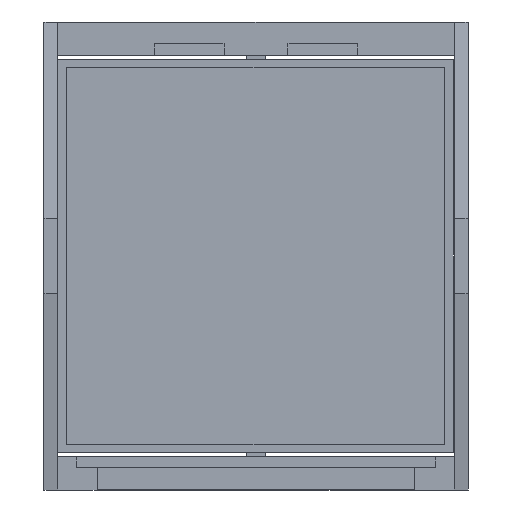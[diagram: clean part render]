
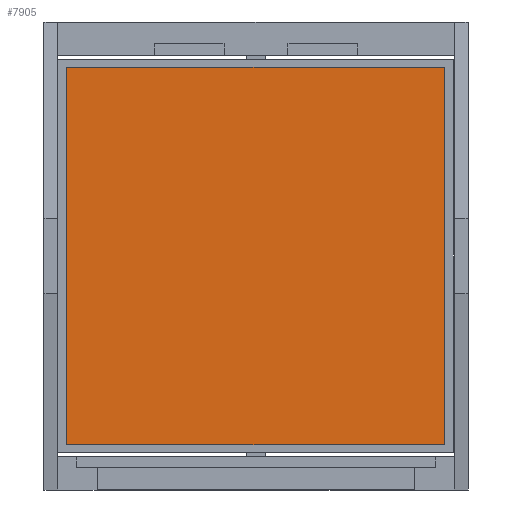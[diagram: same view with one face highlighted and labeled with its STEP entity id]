
A CAD part, front view. The second image highlights one B-rep face of the part: STEP entity #7905.
In plain terms, the highlighted planar face has unit normal (0, -1, 0).
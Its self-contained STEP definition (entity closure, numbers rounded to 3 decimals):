
#18 = VERTEX_POINT ( 'NONE', #1302 ) ;
#376 = DIRECTION ( 'NONE',  ( 0., 0., 1. ) ) ;
#425 = VECTOR ( 'NONE', #8895, 1000. ) ;
#448 = CARTESIAN_POINT ( 'NONE',  ( 24.524, -2.324, -20.423 ) ) ;
#545 = EDGE_LOOP ( 'NONE', ( #5211, #2490, #4148, #9386 ) ) ;
#1302 = CARTESIAN_POINT ( 'NONE',  ( -13.476, -2.324, 17.577 ) ) ;
#1374 = VECTOR ( 'NONE', #9052, 1000. ) ;
#1856 = CARTESIAN_POINT ( 'NONE',  ( -13.476, -2.324, -20.423 ) ) ;
#2164 = PLANE ( 'NONE',  #5476 ) ;
#2466 = CARTESIAN_POINT ( 'NONE',  ( 24.524, -2.324, -20.423 ) ) ;
#2490 = ORIENTED_EDGE ( 'NONE', *, *, #8746, .F. ) ;
#2530 = LINE ( 'NONE', #5480, #3372 ) ;
#2576 = VERTEX_POINT ( 'NONE', #1856 ) ;
#2888 = CARTESIAN_POINT ( 'NONE',  ( -13.476, -2.324, 17.577 ) ) ;
#3095 = LINE ( 'NONE', #2466, #1374 ) ;
#3198 = CARTESIAN_POINT ( 'NONE',  ( 24.524, -2.324, 17.577 ) ) ;
#3372 = VECTOR ( 'NONE', #6812, 1000. ) ;
#3678 = DIRECTION ( 'NONE',  ( 0., 1., 0. ) ) ;
#3722 = DIRECTION ( 'NONE',  ( 0., 0., 1. ) ) ;
#4148 = ORIENTED_EDGE ( 'NONE', *, *, #4995, .F. ) ;
#4767 = LINE ( 'NONE', #6969, #6279 ) ;
#4995 = EDGE_CURVE ( 'NONE', #8299, #8651, #3095, .T. ) ;
#5211 = ORIENTED_EDGE ( 'NONE', *, *, #9105, .F. ) ;
#5225 = LINE ( 'NONE', #6605, #425 ) ;
#5476 = AXIS2_PLACEMENT_3D ( 'NONE', #2888, #3678, #3722 ) ;
#5480 = CARTESIAN_POINT ( 'NONE',  ( -13.476, -2.324, 17.577 ) ) ;
#6279 = VECTOR ( 'NONE', #376, 1000. ) ;
#6605 = CARTESIAN_POINT ( 'NONE',  ( -13.476, -2.324, -20.423 ) ) ;
#6769 = EDGE_CURVE ( 'NONE', #18, #8299, #2530, .T. ) ;
#6812 = DIRECTION ( 'NONE',  ( 1., 0., 0. ) ) ;
#6969 = CARTESIAN_POINT ( 'NONE',  ( -13.476, -2.324, -20.423 ) ) ;
#7905 = ADVANCED_FACE ( 'NONE', ( #8744 ), #2164, .F. ) ;
#8299 = VERTEX_POINT ( 'NONE', #3198 ) ;
#8651 = VERTEX_POINT ( 'NONE', #448 ) ;
#8744 = FACE_OUTER_BOUND ( 'NONE', #545, .T. ) ;
#8746 = EDGE_CURVE ( 'NONE', #8651, #2576, #5225, .T. ) ;
#8895 = DIRECTION ( 'NONE',  ( -1., 0., 0. ) ) ;
#9052 = DIRECTION ( 'NONE',  ( 0., 0., -1. ) ) ;
#9105 = EDGE_CURVE ( 'NONE', #2576, #18, #4767, .T. ) ;
#9386 = ORIENTED_EDGE ( 'NONE', *, *, #6769, .F. ) ;
